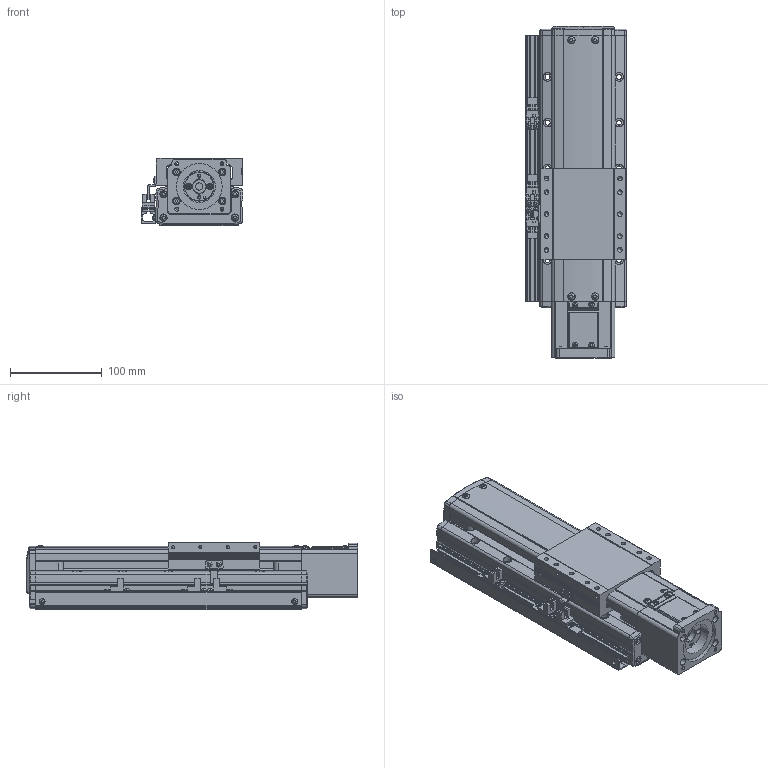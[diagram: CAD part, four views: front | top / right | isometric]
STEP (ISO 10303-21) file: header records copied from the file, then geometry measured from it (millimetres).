
FILE_DESCRIPTION(('STEP AP214'),'1');
FILE_NAME('Z:/Web/3D/PSA95/STP/PSA95-100 (3D)/PSA95ㅁㅁ-100S+3SL.stp','2014-07-02T23:30:34',(' '),(' '),'Spatial InterOp 3D',' ',' ');
FILE_SCHEMA(('automotive_design'));
Length unit declared in the file: millimetre
Products named in the file (53): BASE; RRCV; 스크루 : Round - M4.0 x 10.0; 너트 : Square - M10.0 x 220.7419; RR1500; FRCV-090; 스크루 : Round - M4.0 x 6.0; SLBL-PA90; SSFX-SAN65; CPLCV-SAN65; 스크루 : Round - M3.0 x 6.0; MTHZ-PA70/90-S60A-3; 스크루 : Socket - M4.0 x 20.0; NONE; EE-SX674; SBK-SX674-352; M3.0 x 6.0; SRL-16x17-380L; SGD-PA95; 스크루 : Round - M3.0 x 8.0
Bounding box: 111 x 362.5 x 74 mm (x, y, z)
Volume: 1931637.3 mm3; surface area: 314579.4 mm2
Topology: 53 solids, 87 shells, 3456 faces, 8860 edges, 5636 vertices
Faces by surface type: plane 1803, cylinder 1014, cone 383, torus 158, sphere 66, bspline 32
Entity records: 136202 total; most frequent: CARTESIAN_POINT 21958, DIRECTION 18548, ORIENTED_EDGE 17480, EDGE_CURVE 8740, AXIS2_PLACEMENT_3D 6548, VERTEX_POINT 5636, LINE 5452, VECTOR 5452
